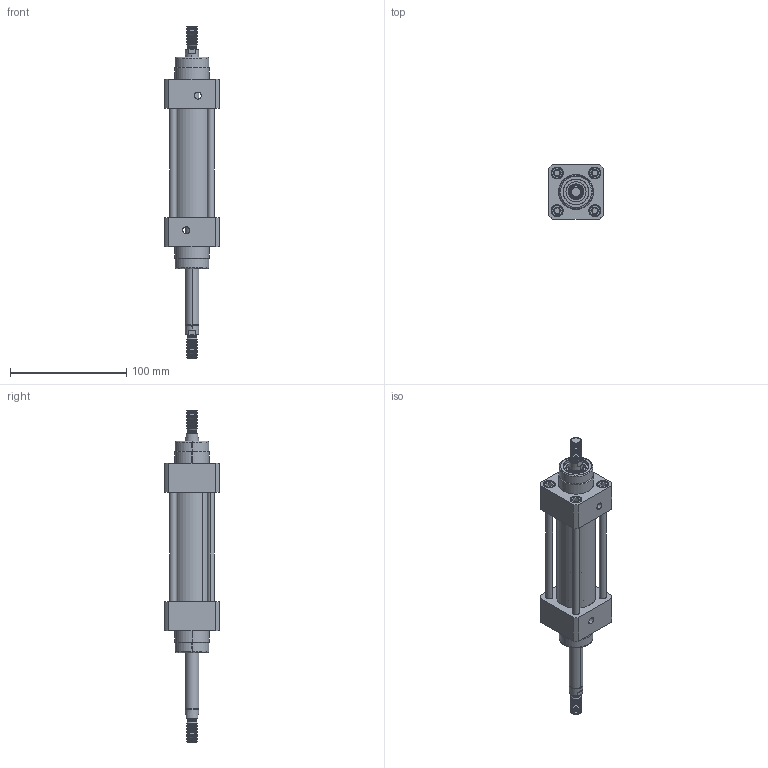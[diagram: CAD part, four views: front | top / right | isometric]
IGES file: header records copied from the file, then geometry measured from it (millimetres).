
Start section: SolidWorks IGES file using analytic representation for surfaces
Global section: file name: c:\CATALO3D\IGS\XJS32.0050P.IGS; native system: SolidWorks 2005 by SolidWorks Corporation; preprocessor: SolidWorks 2005 by SolidWorks Corporation; author: tania; date: 051130.140327; units: millimetre
Bounding box: 47 x 47 x 286 mm (x, y, z)
Surface area: 89372.7 mm2 (no closed solid volume)
Topology: 0 solids, 0 shells, 1180 faces, 25832 edges, 31708 vertices
Faces by surface type: revolution 868, bspline 312
